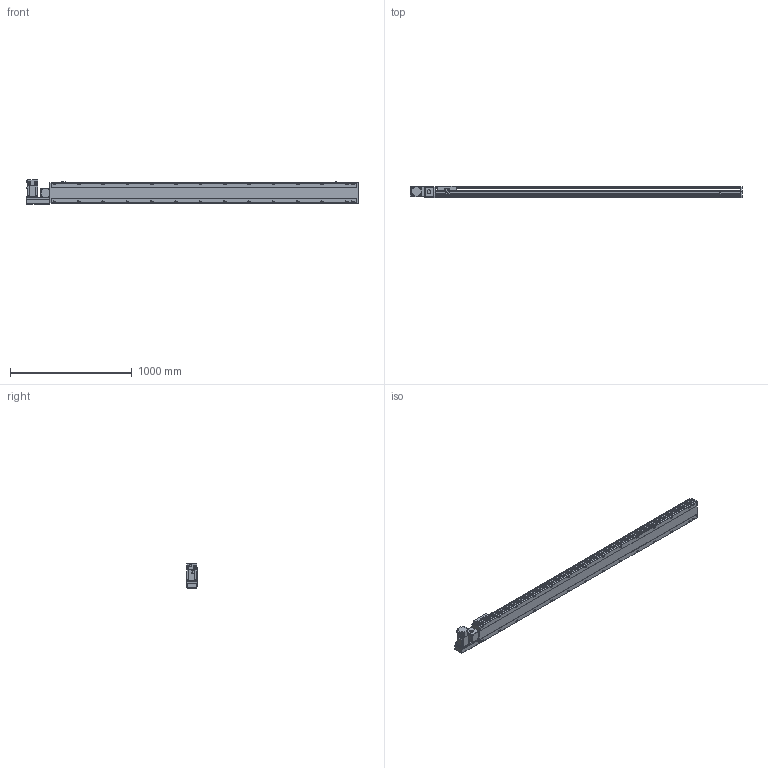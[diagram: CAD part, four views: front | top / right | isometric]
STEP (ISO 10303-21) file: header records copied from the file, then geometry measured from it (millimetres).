
FILE_DESCRIPTION( ( 'STEP AP214' ), '1' );
FILE_NAME( 'x:/temp/worker_3/temp/exporttempdir_5796_119_Ogw5I/format_0/PBS170-P40-S2250-L-T75-C1-N(0).stp', '2022-06-07T06:58:28', ( 'License CC BY-ND 4.0' ), ( 'CADENAS' ), ' ', 'PARTsolutions', ' ' );
FILE_SCHEMA( ( 'AUTOMOTIVE_DESIGN { 1 0 10303 214 1 1 1 1 }' ) );
Length unit declared in the file: millimetre
Products named in the file (7): PBS170-P40-S2250-L-T75-C1-N(0); _PBS170-S2250()_body; _PBS170T-L_motors; _T75-p1; _PBS170_sliser; _PBS170_plant; _PBS170_sensor
Assembly tree (8 placements, depth 2):
  PBS170-P40-S2250-L-T75-C1-N(0)
    _PBS170-S2250()_body
    _PBS170T-L_motors
    _T75-p1
    _PBS170_sliser
    _PBS170_plant
    _PBS170_sensor  x3
Bounding box: 2728 x 97 x 197.3 mm (x, y, z)
Volume: 19894307.2 mm3; surface area: 2515826.5 mm2
Topology: 8 solids, 8 shells, 1178 faces, 3115 edges, 2030 vertices
Faces by surface type: plane 723, cylinder 387, cone 58, sphere 8, torus 2
Full cylindrical faces by diameter (mm): 3.242 x4, 4 x2, 4.4 x4, 4.5 x6, 4.917 x4, 6 x9, 6.647 x36, 7 x2, 7.5 x4, 8 x8, 8.5 x28, 10 x4, 10.5 x28, 11 x2, 30 x2, 40 x1, 70 x1
Entity records: 43592 total; most frequent: CARTESIAN_POINT 7229, DIRECTION 5720, ORIENTED_EDGE 5388, EDGE_CURVE 2694, AXIS2_PLACEMENT_3D 2017, VERTEX_POINT 1874, LINE 1686, VECTOR 1686
